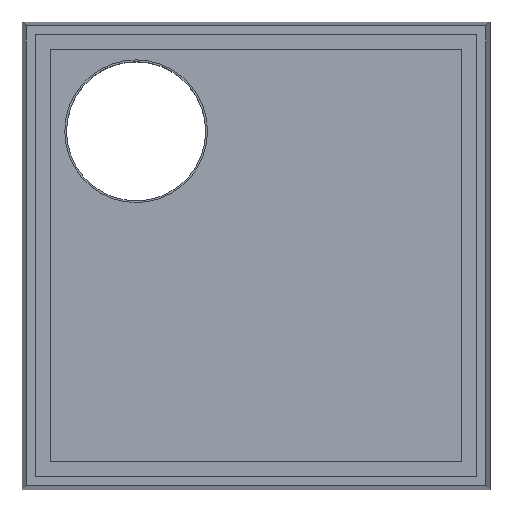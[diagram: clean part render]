
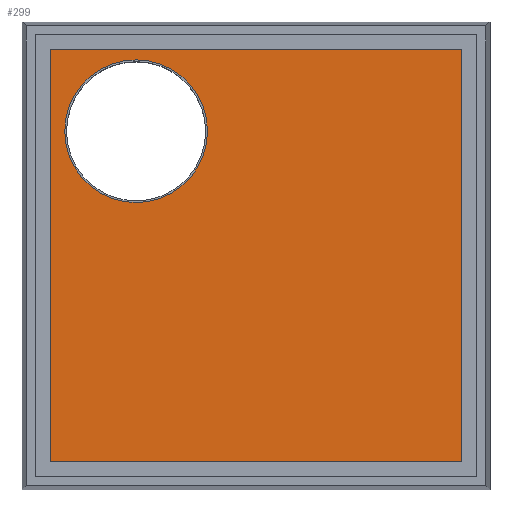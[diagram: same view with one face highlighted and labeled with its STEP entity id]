
A CAD part, top view. The second image highlights one B-rep face of the part: STEP entity #299.
In plain terms, the highlighted planar face has unit normal (0, 0, 1).
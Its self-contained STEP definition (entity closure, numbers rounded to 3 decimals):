
#4 = PLANE ( 'NONE',  #558 ) ;
#13 = CARTESIAN_POINT ( 'NONE',  ( -114., -114., 26. ) ) ;
#15 = VECTOR ( 'NONE', #285, 1000. ) ;
#18 = CARTESIAN_POINT ( 'NONE',  ( -114., -114., 26. ) ) ;
#20 = EDGE_CURVE ( 'NONE', #528, #528, #107, .T. ) ;
#34 = VECTOR ( 'NONE', #94, 1000. ) ;
#73 = LINE ( 'NONE', #296, #129 ) ;
#80 = EDGE_CURVE ( 'NONE', #193, #548, #221, .T. ) ;
#94 = DIRECTION ( 'NONE',  ( 0., 1., 0. ) ) ;
#95 = EDGE_CURVE ( 'NONE', #523, #555, #402, .T. ) ;
#107 = CIRCLE ( 'NONE', #181, 39.5 ) ;
#114 = FACE_BOUND ( 'NONE', #130, .T. ) ;
#129 = VECTOR ( 'NONE', #337, 1000. ) ;
#130 = EDGE_LOOP ( 'NONE', ( #235 ) ) ;
#175 = CARTESIAN_POINT ( 'NONE',  ( 114., 114., 26. ) ) ;
#178 = ORIENTED_EDGE ( 'NONE', *, *, #279, .T. ) ;
#181 = AXIS2_PLACEMENT_3D ( 'NONE', #413, #284, #576 ) ;
#193 = VERTEX_POINT ( 'NONE', #438 ) ;
#207 = ORIENTED_EDGE ( 'NONE', *, *, #376, .T. ) ;
#209 = DIRECTION ( 'NONE',  ( 1., 0., 0. ) ) ;
#221 = LINE ( 'NONE', #239, #34 ) ;
#235 = ORIENTED_EDGE ( 'NONE', *, *, #20, .F. ) ;
#239 = CARTESIAN_POINT ( 'NONE',  ( 114., -114., 26. ) ) ;
#279 = EDGE_CURVE ( 'NONE', #548, #523, #73, .T. ) ;
#283 = ORIENTED_EDGE ( 'NONE', *, *, #95, .T. ) ;
#284 = DIRECTION ( 'NONE',  ( 0., 0., 1. ) ) ;
#285 = DIRECTION ( 'NONE',  ( 0., -1., 0. ) ) ;
#296 = CARTESIAN_POINT ( 'NONE',  ( -114., 114., 26. ) ) ;
#299 = ADVANCED_FACE ( 'NONE', ( #114, #319 ), #4, .F. ) ;
#319 = FACE_OUTER_BOUND ( 'NONE', #539, .T. ) ;
#331 = CARTESIAN_POINT ( 'NONE',  ( -114., -114., 26. ) ) ;
#337 = DIRECTION ( 'NONE',  ( -1., 0., 0. ) ) ;
#353 = DIRECTION ( 'NONE',  ( -1., 0., 0. ) ) ;
#355 = CARTESIAN_POINT ( 'NONE',  ( 0., 0., 26. ) ) ;
#376 = EDGE_CURVE ( 'NONE', #555, #193, #627, .T. ) ;
#402 = LINE ( 'NONE', #331, #15 ) ;
#406 = CARTESIAN_POINT ( 'NONE',  ( -105.85, 69., 26. ) ) ;
#413 = CARTESIAN_POINT ( 'NONE',  ( -66.35, 69., 26. ) ) ;
#438 = CARTESIAN_POINT ( 'NONE',  ( 114., -114., 26. ) ) ;
#523 = VERTEX_POINT ( 'NONE', #550 ) ;
#528 = VERTEX_POINT ( 'NONE', #406 ) ;
#539 = EDGE_LOOP ( 'NONE', ( #283, #207, #572, #178 ) ) ;
#541 = DIRECTION ( 'NONE',  ( 0., 0., -1. ) ) ;
#548 = VERTEX_POINT ( 'NONE', #175 ) ;
#550 = CARTESIAN_POINT ( 'NONE',  ( -114., 114., 26. ) ) ;
#555 = VERTEX_POINT ( 'NONE', #18 ) ;
#558 = AXIS2_PLACEMENT_3D ( 'NONE', #355, #541, #353 ) ;
#572 = ORIENTED_EDGE ( 'NONE', *, *, #80, .T. ) ;
#576 = DIRECTION ( 'NONE',  ( -1., 0., 0. ) ) ;
#627 = LINE ( 'NONE', #13, #635 ) ;
#635 = VECTOR ( 'NONE', #209, 1000. ) ;
